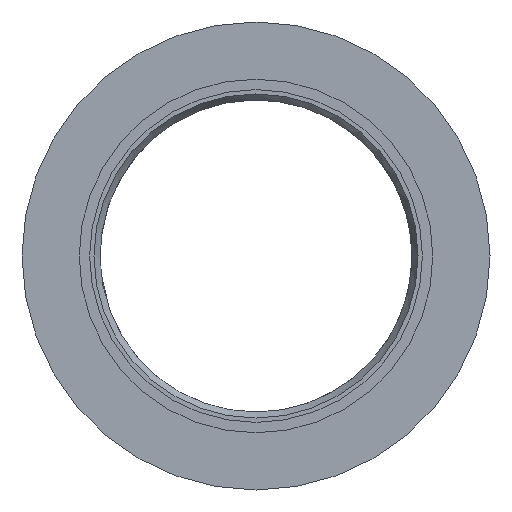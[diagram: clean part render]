
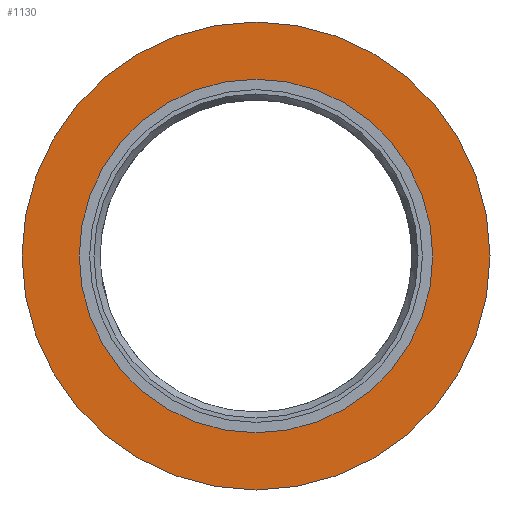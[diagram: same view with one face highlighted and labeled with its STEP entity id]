
A CAD part, left-side view. The second image highlights one B-rep face of the part: STEP entity #1130.
In plain terms, the highlighted planar face has unit normal (-1, 0, 0).
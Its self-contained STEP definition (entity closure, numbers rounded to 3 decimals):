
#53 = AXIS2_PLACEMENT_3D ( 'NONE', #719, #720, #721 ) ;
#54 = AXIS2_PLACEMENT_3D ( 'NONE', #715, #716, #717 ) ;
#79 = AXIS2_PLACEMENT_3D ( 'NONE', #862, #863, #864 ) ;
#190 = EDGE_CURVE ( 'NONE', #980, #980, #793, .T. ) ;
#191 = EDGE_CURVE ( 'NONE', #981, #981, #794, .T. ) ;
#462 = ORIENTED_EDGE ( 'NONE', *, *, #191, .T. ) ;
#463 = ORIENTED_EDGE ( 'NONE', *, *, #190, .F. ) ;
#715 = CARTESIAN_POINT ( 'NONE',  ( -0.5, 0., 0. ) ) ;
#716 = DIRECTION ( 'NONE',  ( 1., 0., 0. ) ) ;
#717 = DIRECTION ( 'NONE',  ( 0., 0., -1. ) ) ;
#719 = CARTESIAN_POINT ( 'NONE',  ( -0.5, 0., 0. ) ) ;
#720 = DIRECTION ( 'NONE',  ( 1., 0., 0. ) ) ;
#721 = DIRECTION ( 'NONE',  ( 0., 0., -1. ) ) ;
#793 = CIRCLE ( 'NONE', #54, 22.5 ) ;
#794 = CIRCLE ( 'NONE', #53, 17. ) ;
#827 = FACE_OUTER_BOUND ( 'NONE', #1155, .T. ) ;
#832 = FACE_BOUND ( 'NONE', #1312, .T. ) ;
#860 = PLANE ( 'NONE',  #79 ) ;
#862 = CARTESIAN_POINT ( 'NONE',  ( -0.5, 0., 0. ) ) ;
#863 = DIRECTION ( 'NONE',  ( 1., 0., 0. ) ) ;
#864 = DIRECTION ( 'NONE',  ( 0., 0., -1. ) ) ;
#980 = VERTEX_POINT ( 'NONE', #1088 ) ;
#981 = VERTEX_POINT ( 'NONE', #1089 ) ;
#1088 = CARTESIAN_POINT ( 'NONE',  ( -0.5, 0., -22.5 ) ) ;
#1089 = CARTESIAN_POINT ( 'NONE',  ( -0.5, 0., -17. ) ) ;
#1130 = ADVANCED_FACE ( 'NONE', ( #827, #832 ), #860, .F. ) ;
#1155 = EDGE_LOOP ( 'NONE', ( #463 ) ) ;
#1312 = EDGE_LOOP ( 'NONE', ( #462 ) ) ;
